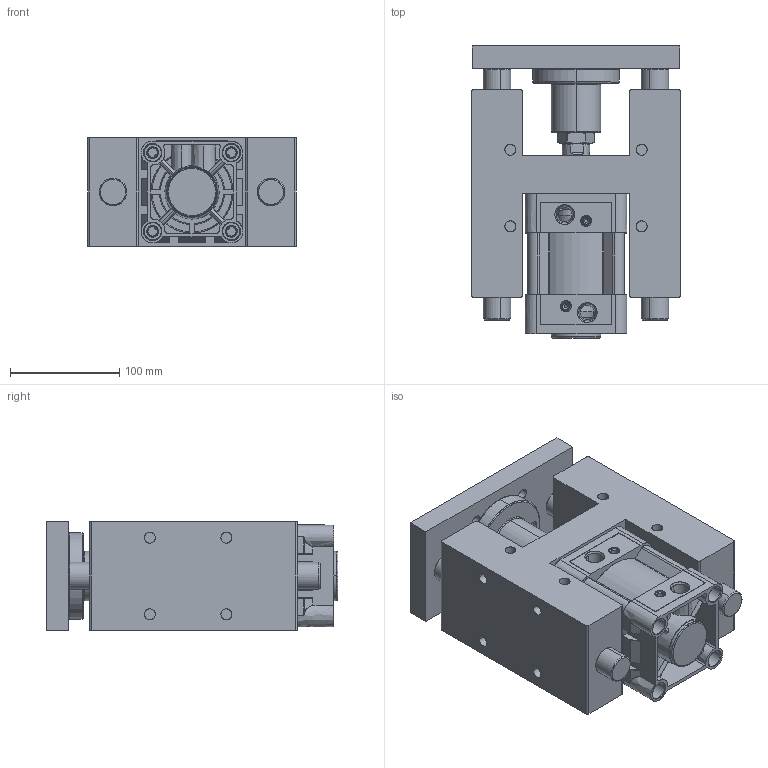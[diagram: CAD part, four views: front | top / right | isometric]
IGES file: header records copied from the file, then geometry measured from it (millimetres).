
Start section: SolidWorks IGES file using analytic representation for surfaces
Global section: file name: D:\ARICA 3D 禽Z軲LER\3D IGES\DNC-H\MDNC\80\MDNC80X0H-YATAK.IGS,1; native system: 5HSolidWorks 2013; preprocessor: SolidWorks 2013; author: user; date: 160520.165919; units: millimetre
Bounding box: 191 x 266.9 x 100.5 mm (x, y, z)
Surface area: 562927.8 mm2 (no closed solid volume)
Topology: 0 solids, 0 shells, 1193 faces, 20524 edges, 20514 vertices
Faces by surface type: revolution 744, bspline 449
